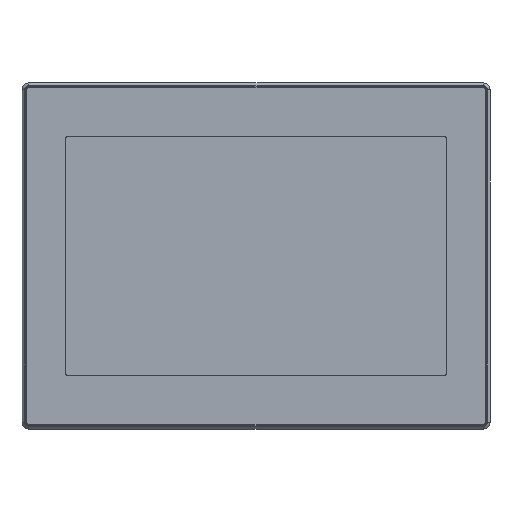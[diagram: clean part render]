
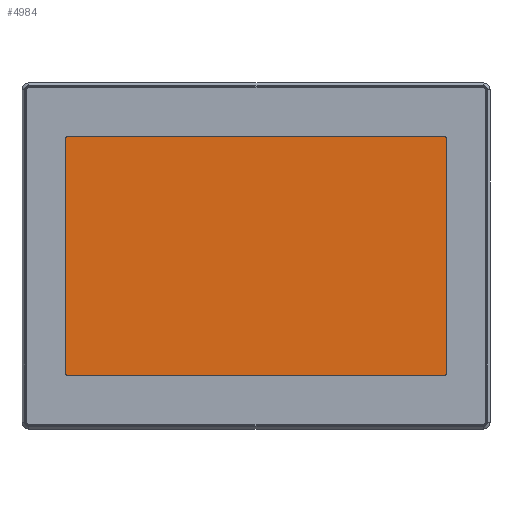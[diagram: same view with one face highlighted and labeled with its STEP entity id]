
A CAD part, top view. The second image highlights one B-rep face of the part: STEP entity #4984.
In plain terms, the highlighted planar face has unit normal (0, 0, 1).
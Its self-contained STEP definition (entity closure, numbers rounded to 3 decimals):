
#4984=ADVANCED_FACE('',(#8754),#6577,.F.);
#6577=PLANE('',#48196);
#8754=FACE_OUTER_BOUND('',#11414,.T.);
#11414=EDGE_LOOP('',(#24700,#24701,#24702,#24703,#24704,#24705,#24706,#24707));
#12620=CIRCLE('',#48192,1.);
#12621=CIRCLE('',#48193,1.);
#12622=CIRCLE('',#48194,1.);
#12623=CIRCLE('',#48195,1.);
#24700=ORIENTED_EDGE('',*,*,#36112,.T.);
#24701=ORIENTED_EDGE('',*,*,#36113,.T.);
#24702=ORIENTED_EDGE('',*,*,#36114,.T.);
#24703=ORIENTED_EDGE('',*,*,#36115,.T.);
#24704=ORIENTED_EDGE('',*,*,#36116,.T.);
#24705=ORIENTED_EDGE('',*,*,#36117,.T.);
#24706=ORIENTED_EDGE('',*,*,#36118,.T.);
#24707=ORIENTED_EDGE('',*,*,#36119,.T.);
#29779=VERTEX_POINT('',#86156);
#29780=VERTEX_POINT('',#86157);
#29781=VERTEX_POINT('',#86159);
#29782=VERTEX_POINT('',#86161);
#29783=VERTEX_POINT('',#86163);
#29784=VERTEX_POINT('',#86165);
#29785=VERTEX_POINT('',#86167);
#29786=VERTEX_POINT('',#86169);
#36112=EDGE_CURVE('',#29779,#29780,#12620,.T.);
#36113=EDGE_CURVE('',#29780,#29781,#40594,.T.);
#36114=EDGE_CURVE('',#29781,#29782,#12621,.T.);
#36115=EDGE_CURVE('',#29782,#29783,#40595,.T.);
#36116=EDGE_CURVE('',#29783,#29784,#12622,.T.);
#36117=EDGE_CURVE('',#29784,#29785,#40596,.T.);
#36118=EDGE_CURVE('',#29785,#29786,#12623,.T.);
#36119=EDGE_CURVE('',#29786,#29779,#40597,.T.);
#40594=LINE('',#86158,#44859);
#40595=LINE('',#86162,#44860);
#40596=LINE('',#86166,#44861);
#40597=LINE('',#86170,#44862);
#44859=VECTOR('',#58584,1.);
#44860=VECTOR('',#58587,1.);
#44861=VECTOR('',#58590,1.);
#44862=VECTOR('',#58593,1.);
#48192=AXIS2_PLACEMENT_3D('',#86155,#58582,#58583);
#48193=AXIS2_PLACEMENT_3D('',#86160,#58585,#58586);
#48194=AXIS2_PLACEMENT_3D('',#86164,#58588,#58589);
#48195=AXIS2_PLACEMENT_3D('',#86168,#58591,#58592);
#48196=AXIS2_PLACEMENT_3D('',#86171,#58594,#58595);
#58582=DIRECTION('',(0.,0.,1.));
#58583=DIRECTION('',(1.,0.,0.));
#58584=DIRECTION('',(0.,1.,0.));
#58585=DIRECTION('',(0.,0.,1.));
#58586=DIRECTION('',(1.,0.,0.));
#58587=DIRECTION('',(-1.,0.,0.));
#58588=DIRECTION('',(0.,0.,1.));
#58589=DIRECTION('',(1.,0.,0.));
#58590=DIRECTION('',(0.,-1.,0.));
#58591=DIRECTION('',(0.,0.,1.));
#58592=DIRECTION('',(1.,0.,0.));
#58593=DIRECTION('',(1.,0.,0.));
#58594=DIRECTION('',(0.,0.,-1.));
#58595=DIRECTION('',(1.,0.,0.));
#86155=CARTESIAN_POINT('',(242.48,31.7,64.125));
#86156=CARTESIAN_POINT('',(242.48,30.7,64.125));
#86157=CARTESIAN_POINT('',(243.48,31.7,64.125));
#86158=CARTESIAN_POINT('',(243.48,166.8,64.125));
#86159=CARTESIAN_POINT('',(243.48,166.8,64.125));
#86160=CARTESIAN_POINT('',(242.48,166.8,64.125));
#86161=CARTESIAN_POINT('',(242.48,167.8,64.125));
#86162=CARTESIAN_POINT('',(26.02,167.8,64.125));
#86163=CARTESIAN_POINT('',(26.02,167.8,64.125));
#86164=CARTESIAN_POINT('',(26.02,166.8,64.125));
#86165=CARTESIAN_POINT('',(25.02,166.8,64.125));
#86166=CARTESIAN_POINT('',(25.02,166.8,64.125));
#86167=CARTESIAN_POINT('',(25.02,31.7,64.125));
#86168=CARTESIAN_POINT('',(26.02,31.7,64.125));
#86169=CARTESIAN_POINT('',(26.02,30.7,64.125));
#86170=CARTESIAN_POINT('',(26.02,30.7,64.125));
#86171=CARTESIAN_POINT('',(242.48,166.8,64.125));
